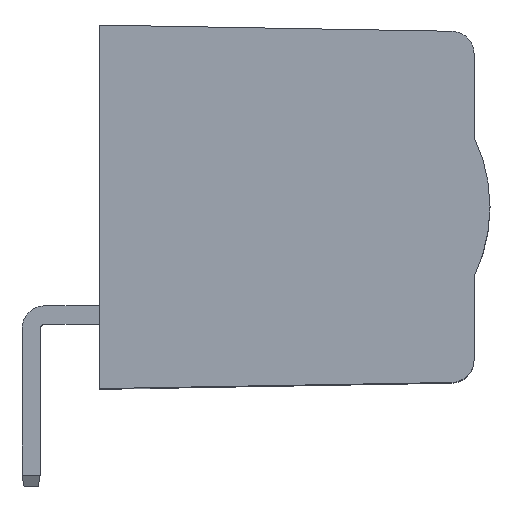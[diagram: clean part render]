
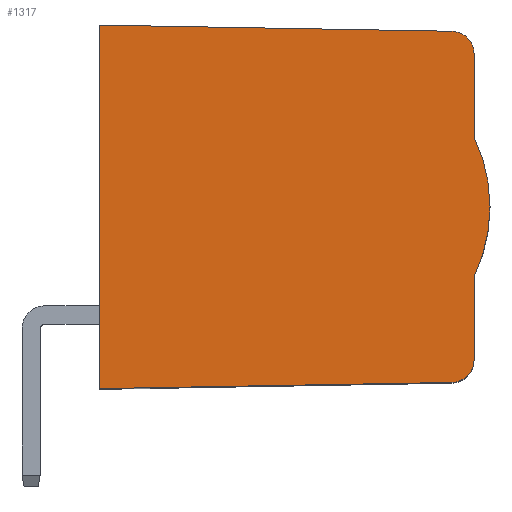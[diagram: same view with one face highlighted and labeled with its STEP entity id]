
A CAD part, top view. The second image highlights one B-rep face of the part: STEP entity #1317.
In plain terms, the highlighted planar face has unit normal (0, 0, 1).
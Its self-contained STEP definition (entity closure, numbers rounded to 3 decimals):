
#20 = VERTEX_POINT ( 'NONE', #1728 ) ;
#299 = CARTESIAN_POINT ( 'NONE',  ( 15.5, 1.271, -240. ) ) ;
#304 = VERTEX_POINT ( 'NONE', #7432 ) ;
#574 = EDGE_CURVE ( 'NONE', #6464, #304, #2127, .T. ) ;
#603 = ORIENTED_EDGE ( 'NONE', *, *, #5916, .F. ) ;
#850 = EDGE_CURVE ( 'NONE', #20, #2136, #4650, .T. ) ;
#885 = ORIENTED_EDGE ( 'NONE', *, *, #1300, .T. ) ;
#1300 = EDGE_CURVE ( 'NONE', #7357, #8614, #2789, .T. ) ;
#1317 = ADVANCED_FACE ( 'NONE', ( #3606 ), #2417, .T. ) ;
#1339 = CARTESIAN_POINT ( 'NONE',  ( 16.5, 4.949, -240. ) ) ;
#1647 = DIRECTION ( 'NONE',  ( 0., -1., 0. ) ) ;
#1728 = CARTESIAN_POINT ( 'NONE',  ( 0., 16., -240. ) ) ;
#1883 = CARTESIAN_POINT ( 'NONE',  ( 16.5, 1.271, -240. ) ) ;
#1898 = LINE ( 'NONE', #7799, #7402 ) ;
#1904 = CARTESIAN_POINT ( 'NONE',  ( 0., 16., -240. ) ) ;
#2127 = LINE ( 'NONE', #3125, #7441 ) ;
#2136 = VERTEX_POINT ( 'NONE', #3388 ) ;
#2215 = CIRCLE ( 'NONE', #2588, 1. ) ;
#2318 = DIRECTION ( 'NONE',  ( 0., 1., 0. ) ) ;
#2417 = PLANE ( 'NONE',  #7211 ) ;
#2445 = CIRCLE ( 'NONE', #2964, 1. ) ;
#2506 = VECTOR ( 'NONE', #6677, 1000. ) ;
#2588 = AXIS2_PLACEMENT_3D ( 'NONE', #299, #8483, #5002 ) ;
#2608 = CARTESIAN_POINT ( 'NONE',  ( 16.5, 8., -240. ) ) ;
#2694 = DIRECTION ( 'NONE',  ( 1., -0.017, 0. ) ) ;
#2705 = ORIENTED_EDGE ( 'NONE', *, *, #3293, .T. ) ;
#2789 = CIRCLE ( 'NONE', #3457, 7. ) ;
#2797 = EDGE_CURVE ( 'NONE', #8238, #2136, #2445, .T. ) ;
#2964 = AXIS2_PLACEMENT_3D ( 'NONE', #7724, #5676, #1647 ) ;
#3081 = DIRECTION ( 'NONE',  ( 0., -1., 0. ) ) ;
#3125 = CARTESIAN_POINT ( 'NONE',  ( 0., 0., -240. ) ) ;
#3141 = CARTESIAN_POINT ( 'NONE',  ( 0., 8., -240. ) ) ;
#3142 = ORIENTED_EDGE ( 'NONE', *, *, #574, .T. ) ;
#3215 = LINE ( 'NONE', #1904, #8330 ) ;
#3293 = EDGE_CURVE ( 'NONE', #304, #7181, #2215, .T. ) ;
#3347 = EDGE_CURVE ( 'NONE', #7181, #7357, #1898, .T. ) ;
#3388 = CARTESIAN_POINT ( 'NONE',  ( 15.517, 15.729, -240. ) ) ;
#3457 = AXIS2_PLACEMENT_3D ( 'NONE', #8579, #4493, #5089 ) ;
#3597 = ORIENTED_EDGE ( 'NONE', *, *, #850, .F. ) ;
#3606 = FACE_OUTER_BOUND ( 'NONE', #5433, .T. ) ;
#3682 = CARTESIAN_POINT ( 'NONE',  ( 16.5, 11.051, -240. ) ) ;
#4419 = ORIENTED_EDGE ( 'NONE', *, *, #5371, .T. ) ;
#4422 = VECTOR ( 'NONE', #2694, 1000. ) ;
#4493 = DIRECTION ( 'NONE',  ( 0., 0., 1. ) ) ;
#4645 = CARTESIAN_POINT ( 'NONE',  ( 16.5, 14.729, -240. ) ) ;
#4650 = LINE ( 'NONE', #7392, #4422 ) ;
#5002 = DIRECTION ( 'NONE',  ( 0., -1., 0. ) ) ;
#5089 = DIRECTION ( 'NONE',  ( 0., -1., 0. ) ) ;
#5197 = CARTESIAN_POINT ( 'NONE',  ( 0., 0., -240. ) ) ;
#5371 = EDGE_CURVE ( 'NONE', #8614, #8238, #7910, .T. ) ;
#5433 = EDGE_LOOP ( 'NONE', ( #7299, #885, #4419, #5950, #3597, #603, #3142, #2705 ) ) ;
#5676 = DIRECTION ( 'NONE',  ( 0., 0., 1. ) ) ;
#5916 = EDGE_CURVE ( 'NONE', #6464, #20, #3215, .T. ) ;
#5950 = ORIENTED_EDGE ( 'NONE', *, *, #2797, .T. ) ;
#6464 = VERTEX_POINT ( 'NONE', #5197 ) ;
#6677 = DIRECTION ( 'NONE',  ( 0., 1., 0. ) ) ;
#7181 = VERTEX_POINT ( 'NONE', #1883 ) ;
#7211 = AXIS2_PLACEMENT_3D ( 'NONE', #3141, #8550, #3081 ) ;
#7299 = ORIENTED_EDGE ( 'NONE', *, *, #3347, .T. ) ;
#7357 = VERTEX_POINT ( 'NONE', #1339 ) ;
#7392 = CARTESIAN_POINT ( 'NONE',  ( 0., 16., -240. ) ) ;
#7402 = VECTOR ( 'NONE', #2318, 1000. ) ;
#7432 = CARTESIAN_POINT ( 'NONE',  ( 15.517, 0.271, -240. ) ) ;
#7441 = VECTOR ( 'NONE', #7789, 1000. ) ;
#7724 = CARTESIAN_POINT ( 'NONE',  ( 15.5, 14.729, -240. ) ) ;
#7789 = DIRECTION ( 'NONE',  ( 1., 0.017, 0. ) ) ;
#7799 = CARTESIAN_POINT ( 'NONE',  ( 16.5, 8., -240. ) ) ;
#7910 = LINE ( 'NONE', #2608, #2506 ) ;
#7923 = DIRECTION ( 'NONE',  ( 0., 1., 0. ) ) ;
#8238 = VERTEX_POINT ( 'NONE', #4645 ) ;
#8330 = VECTOR ( 'NONE', #7923, 1000. ) ;
#8483 = DIRECTION ( 'NONE',  ( 0., 0., 1. ) ) ;
#8550 = DIRECTION ( 'NONE',  ( 0., 0., 1. ) ) ;
#8579 = CARTESIAN_POINT ( 'NONE',  ( 10.2, 8., -240. ) ) ;
#8614 = VERTEX_POINT ( 'NONE', #3682 ) ;
